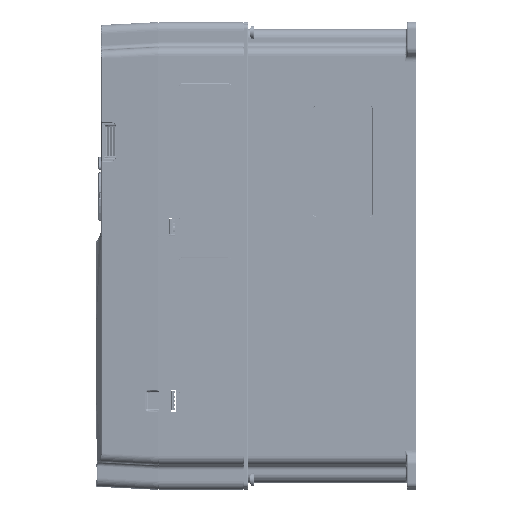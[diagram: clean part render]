
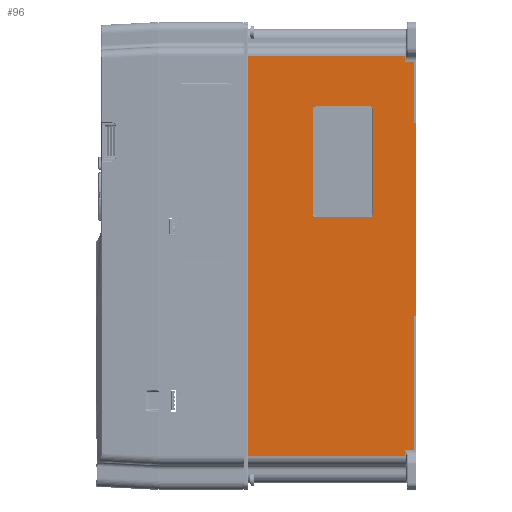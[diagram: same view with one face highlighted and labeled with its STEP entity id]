
A CAD part, left-side view. The second image highlights one B-rep face of the part: STEP entity #96.
In plain terms, the highlighted planar face has unit normal (-1, 0, 0).
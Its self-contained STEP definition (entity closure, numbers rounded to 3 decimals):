
#96 = ADVANCED_FACE('',(#97,#195),#265,.T.);
#97 = FACE_BOUND('',#98,.F.);
#98 = EDGE_LOOP('',(#99,#109,#117,#125,#133,#141,#149,#157,#165,#173,
    #181,#189));
#99 = ORIENTED_EDGE('',*,*,#100,.T.);
#100 = EDGE_CURVE('',#101,#103,#105,.T.);
#101 = VERTEX_POINT('',#102);
#102 = CARTESIAN_POINT('',(-80.,-87.5,137.));
#103 = VERTEX_POINT('',#104);
#104 = CARTESIAN_POINT('',(-80.,-87.5,132.929));
#105 = LINE('',#106,#107);
#106 = CARTESIAN_POINT('',(-80.,-87.5,137.));
#107 = VECTOR('',#108,1.);
#108 = DIRECTION('',(0.,0.,-1.));
#109 = ORIENTED_EDGE('',*,*,#110,.F.);
#110 = EDGE_CURVE('',#111,#103,#113,.T.);
#111 = VERTEX_POINT('',#112);
#112 = CARTESIAN_POINT('',(-80.,-93.5,132.929));
#113 = LINE('',#114,#115);
#114 = CARTESIAN_POINT('',(-80.,-93.5,132.929));
#115 = VECTOR('',#116,1.);
#116 = DIRECTION('',(0.,1.,0.));
#117 = ORIENTED_EDGE('',*,*,#118,.F.);
#118 = EDGE_CURVE('',#119,#111,#121,.T.);
#119 = VERTEX_POINT('',#120);
#120 = CARTESIAN_POINT('',(-80.,-93.5,90.8));
#121 = LINE('',#122,#123);
#122 = CARTESIAN_POINT('',(-80.,-93.5,90.8));
#123 = VECTOR('',#124,1.);
#124 = DIRECTION('',(0.,0.,1.));
#125 = ORIENTED_EDGE('',*,*,#126,.F.);
#126 = EDGE_CURVE('',#127,#119,#129,.T.);
#127 = VERTEX_POINT('',#128);
#128 = CARTESIAN_POINT('',(-80.,-95.,90.8));
#129 = LINE('',#130,#131);
#130 = CARTESIAN_POINT('',(-80.,-95.,90.8));
#131 = VECTOR('',#132,1.);
#132 = DIRECTION('',(0.,1.,0.));
#133 = ORIENTED_EDGE('',*,*,#134,.F.);
#134 = EDGE_CURVE('',#135,#127,#137,.T.);
#135 = VERTEX_POINT('',#136);
#136 = CARTESIAN_POINT('',(-80.,-95.,-40.8));
#137 = LINE('',#138,#139);
#138 = CARTESIAN_POINT('',(-80.,-95.,-40.8));
#139 = VECTOR('',#140,1.);
#140 = DIRECTION('',(0.,0.,1.));
#141 = ORIENTED_EDGE('',*,*,#142,.T.);
#142 = EDGE_CURVE('',#135,#143,#145,.T.);
#143 = VERTEX_POINT('',#144);
#144 = CARTESIAN_POINT('',(-80.,-93.5,-40.8));
#145 = LINE('',#146,#147);
#146 = CARTESIAN_POINT('',(-80.,-95.,-40.8));
#147 = VECTOR('',#148,1.);
#148 = DIRECTION('',(0.,1.,0.));
#149 = ORIENTED_EDGE('',*,*,#150,.F.);
#150 = EDGE_CURVE('',#151,#143,#153,.T.);
#151 = VERTEX_POINT('',#152);
#152 = CARTESIAN_POINT('',(-80.,-93.5,-132.929));
#153 = LINE('',#154,#155);
#154 = CARTESIAN_POINT('',(-80.,-93.5,-132.929));
#155 = VECTOR('',#156,1.);
#156 = DIRECTION('',(0.,0.,1.));
#157 = ORIENTED_EDGE('',*,*,#158,.F.);
#158 = EDGE_CURVE('',#159,#151,#161,.T.);
#159 = VERTEX_POINT('',#160);
#160 = CARTESIAN_POINT('',(-80.,-87.5,
    -132.929));
#161 = LINE('',#162,#163);
#162 = CARTESIAN_POINT('',(-80.,-87.5,
    -132.929));
#163 = VECTOR('',#164,1.);
#164 = DIRECTION('',(0.,-1.,
    0.));
#165 = ORIENTED_EDGE('',*,*,#166,.T.);
#166 = EDGE_CURVE('',#159,#167,#169,.T.);
#167 = VERTEX_POINT('',#168);
#168 = CARTESIAN_POINT('',(-80.,-87.5,-137.));
#169 = LINE('',#170,#171);
#170 = CARTESIAN_POINT('',(-80.,-87.5,
    -132.929));
#171 = VECTOR('',#172,1.);
#172 = DIRECTION('',(0.,0.,
    -1.));
#173 = ORIENTED_EDGE('',*,*,#174,.F.);
#174 = EDGE_CURVE('',#175,#167,#177,.T.);
#175 = VERTEX_POINT('',#176);
#176 = CARTESIAN_POINT('',(-80.,20.,-137.));
#177 = LINE('',#178,#179);
#178 = CARTESIAN_POINT('',(-80.,20.,-137.));
#179 = VECTOR('',#180,1.);
#180 = DIRECTION('',(0.,-1.,0.));
#181 = ORIENTED_EDGE('',*,*,#182,.T.);
#182 = EDGE_CURVE('',#175,#183,#185,.T.);
#183 = VERTEX_POINT('',#184);
#184 = CARTESIAN_POINT('',(-80.,20.,137.));
#185 = LINE('',#186,#187);
#186 = CARTESIAN_POINT('',(-80.,20.,-137.));
#187 = VECTOR('',#188,1.);
#188 = DIRECTION('',(0.,0.,1.));
#189 = ORIENTED_EDGE('',*,*,#190,.T.);
#190 = EDGE_CURVE('',#183,#101,#191,.T.);
#191 = LINE('',#192,#193);
#192 = CARTESIAN_POINT('',(-80.,20.,137.));
#193 = VECTOR('',#194,1.);
#194 = DIRECTION('',(0.,-1.,0.));
#195 = FACE_BOUND('',#196,.F.);
#196 = EDGE_LOOP('',(#197,#208,#216,#225,#233,#242,#250,#259));
#197 = ORIENTED_EDGE('',*,*,#198,.F.);
#198 = EDGE_CURVE('',#199,#201,#203,.T.);
#199 = VERTEX_POINT('',#200);
#200 = CARTESIAN_POINT('',(-80.,-65.458,29.));
#201 = VERTEX_POINT('',#202);
#202 = CARTESIAN_POINT('',(-80.,-63.,26.542));
#203 = CIRCLE('',#204,2.458);
#204 = AXIS2_PLACEMENT_3D('',#205,#206,#207);
#205 = CARTESIAN_POINT('',(-80.,-63.,29.));
#206 = DIRECTION('',(1.,0.,0.));
#207 = DIRECTION('',(0.,-1.,0.));
#208 = ORIENTED_EDGE('',*,*,#209,.F.);
#209 = EDGE_CURVE('',#210,#199,#212,.T.);
#210 = VERTEX_POINT('',#211);
#211 = CARTESIAN_POINT('',(-80.,-65.458,100.4));
#212 = LINE('',#213,#214);
#213 = CARTESIAN_POINT('',(-80.,-65.458,100.4));
#214 = VECTOR('',#215,1.);
#215 = DIRECTION('',(0.,0.,-1.));
#216 = ORIENTED_EDGE('',*,*,#217,.F.);
#217 = EDGE_CURVE('',#218,#210,#220,.T.);
#218 = VERTEX_POINT('',#219);
#219 = CARTESIAN_POINT('',(-80.,-63.,102.858));
#220 = CIRCLE('',#221,2.458);
#221 = AXIS2_PLACEMENT_3D('',#222,#223,#224);
#222 = CARTESIAN_POINT('',(-80.,-63.,100.4));
#223 = DIRECTION('',(1.,0.,-0.));
#224 = DIRECTION('',(0.,0.,1.));
#225 = ORIENTED_EDGE('',*,*,#226,.F.);
#226 = EDGE_CURVE('',#227,#218,#229,.T.);
#227 = VERTEX_POINT('',#228);
#228 = CARTESIAN_POINT('',(-80.,-26.6,102.858));
#229 = LINE('',#230,#231);
#230 = CARTESIAN_POINT('',(-80.,-26.6,102.858));
#231 = VECTOR('',#232,1.);
#232 = DIRECTION('',(0.,-1.,0.));
#233 = ORIENTED_EDGE('',*,*,#234,.F.);
#234 = EDGE_CURVE('',#235,#227,#237,.T.);
#235 = VERTEX_POINT('',#236);
#236 = CARTESIAN_POINT('',(-80.,-24.142,100.4));
#237 = CIRCLE('',#238,2.458);
#238 = AXIS2_PLACEMENT_3D('',#239,#240,#241);
#239 = CARTESIAN_POINT('',(-80.,-26.6,100.4));
#240 = DIRECTION('',(1.,0.,0.));
#241 = DIRECTION('',(-0.,1.,0.));
#242 = ORIENTED_EDGE('',*,*,#243,.F.);
#243 = EDGE_CURVE('',#244,#235,#246,.T.);
#244 = VERTEX_POINT('',#245);
#245 = CARTESIAN_POINT('',(-80.,-24.142,29.));
#246 = LINE('',#247,#248);
#247 = CARTESIAN_POINT('',(-80.,-24.142,29.));
#248 = VECTOR('',#249,1.);
#249 = DIRECTION('',(0.,0.,1.));
#250 = ORIENTED_EDGE('',*,*,#251,.F.);
#251 = EDGE_CURVE('',#252,#244,#254,.T.);
#252 = VERTEX_POINT('',#253);
#253 = CARTESIAN_POINT('',(-80.,-26.6,26.542));
#254 = CIRCLE('',#255,2.458);
#255 = AXIS2_PLACEMENT_3D('',#256,#257,#258);
#256 = CARTESIAN_POINT('',(-80.,-26.6,29.));
#257 = DIRECTION('',(1.,0.,0.));
#258 = DIRECTION('',(0.,0.,-1.));
#259 = ORIENTED_EDGE('',*,*,#260,.F.);
#260 = EDGE_CURVE('',#201,#252,#261,.T.);
#261 = LINE('',#262,#263);
#262 = CARTESIAN_POINT('',(-80.,-63.,26.542));
#263 = VECTOR('',#264,1.);
#264 = DIRECTION('',(0.,1.,0.));
#265 = PLANE('',#266);
#266 = AXIS2_PLACEMENT_3D('',#267,#268,#269);
#267 = CARTESIAN_POINT('',(-80.,-95.,-155.));
#268 = DIRECTION('',(-1.,0.,0.));
#269 = DIRECTION('',(0.,0.,1.));
